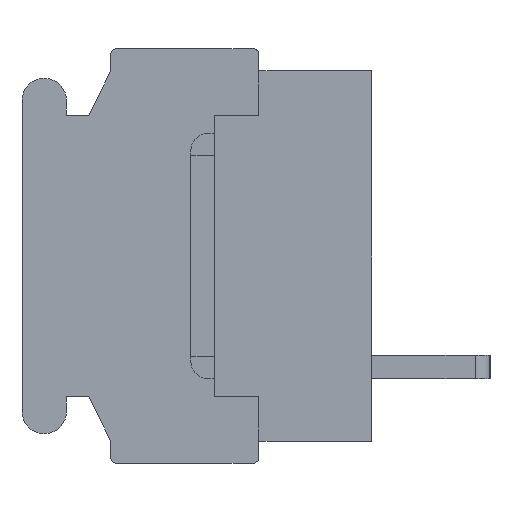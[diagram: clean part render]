
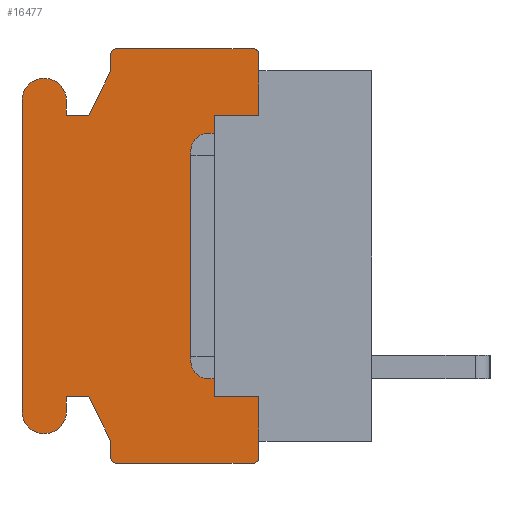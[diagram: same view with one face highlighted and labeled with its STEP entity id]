
A CAD part, left-side view. The second image highlights one B-rep face of the part: STEP entity #16477.
In plain terms, the highlighted planar face has unit normal (-1, 0, 0).
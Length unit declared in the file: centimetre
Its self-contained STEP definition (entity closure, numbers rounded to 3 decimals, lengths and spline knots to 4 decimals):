
#1020=PLANE('',#26991);
#1771=VECTOR('',#17791,1.);
#2520=VECTOR('',#19383,1.);
#2521=VECTOR('',#19384,1.);
#2522=VECTOR('',#19387,1.);
#2523=VECTOR('',#19390,1.);
#2524=VECTOR('',#19391,1.);
#2525=VECTOR('',#19392,1.);
#2526=VECTOR('',#19393,1.);
#2527=VECTOR('',#19396,1.);
#2528=VECTOR('',#19399,1.);
#2529=VECTOR('',#19400,1.);
#2530=VECTOR('',#19401,1.);
#2531=VECTOR('',#19402,1.);
#2532=VECTOR('',#19405,1.);
#2533=VECTOR('',#19408,1.);
#2534=VECTOR('',#19409,1.);
#2535=VECTOR('',#19410,1.);
#2536=VECTOR('',#19411,1.);
#3567=LINE('',#22194,#1771);
#4316=LINE('',#24521,#2520);
#4317=LINE('',#24523,#2521);
#4318=LINE('',#24527,#2522);
#4319=LINE('',#24531,#2523);
#4320=LINE('',#24533,#2524);
#4321=LINE('',#24535,#2525);
#4322=LINE('',#24537,#2526);
#4323=LINE('',#24541,#2527);
#4324=LINE('',#24545,#2528);
#4325=LINE('',#24547,#2529);
#4326=LINE('',#24549,#2530);
#4327=LINE('',#24551,#2531);
#4328=LINE('',#24555,#2532);
#4329=LINE('',#24559,#2533);
#4330=LINE('',#24560,#2534);
#4331=LINE('',#24562,#2535);
#4332=LINE('',#24563,#2536);
#5304=VERTEX_POINT('',#22195);
#5305=VERTEX_POINT('',#22196);
#5393=VERTEX_POINT('',#22447);
#5416=VERTEX_POINT('',#22498);
#5986=VERTEX_POINT('',#24522);
#5987=VERTEX_POINT('',#24524);
#5988=VERTEX_POINT('',#24526);
#5989=VERTEX_POINT('',#24528);
#5990=VERTEX_POINT('',#24530);
#5991=VERTEX_POINT('',#24532);
#5992=VERTEX_POINT('',#24534);
#5993=VERTEX_POINT('',#24536);
#5994=VERTEX_POINT('',#24538);
#5995=VERTEX_POINT('',#24540);
#5996=VERTEX_POINT('',#24542);
#5997=VERTEX_POINT('',#24544);
#5998=VERTEX_POINT('',#24546);
#5999=VERTEX_POINT('',#24548);
#6000=VERTEX_POINT('',#24550);
#6001=VERTEX_POINT('',#24552);
#6002=VERTEX_POINT('',#24554);
#6003=VERTEX_POINT('',#24556);
#6004=VERTEX_POINT('',#24558);
#6005=VERTEX_POINT('',#24561);
#6606=CIRCLE('',#26992,0.02);
#6607=CIRCLE('',#26993,0.02);
#6608=CIRCLE('',#26994,0.075);
#6609=CIRCLE('',#26995,0.075);
#6610=CIRCLE('',#26996,0.02);
#6611=CIRCLE('',#26997,0.02);
#7420=EDGE_CURVE('',#5304,#5305,#3567,.T.);
#8461=EDGE_CURVE('',#5986,#5393,#4316,.T.);
#8462=EDGE_CURVE('',#5987,#5393,#4317,.T.);
#8463=EDGE_CURVE('',#5988,#5987,#6606,.T.);
#8464=EDGE_CURVE('',#5989,#5988,#4318,.T.);
#8465=EDGE_CURVE('',#5990,#5989,#6607,.T.);
#8466=EDGE_CURVE('',#5991,#5990,#4319,.T.);
#8467=EDGE_CURVE('',#5992,#5991,#4320,.T.);
#8468=EDGE_CURVE('',#5993,#5992,#4321,.T.);
#8469=EDGE_CURVE('',#5994,#5993,#4322,.T.);
#8470=EDGE_CURVE('',#5995,#5994,#6608,.T.);
#8471=EDGE_CURVE('',#5996,#5995,#4323,.T.);
#8472=EDGE_CURVE('',#5997,#5996,#6609,.T.);
#8473=EDGE_CURVE('',#5998,#5997,#4324,.T.);
#8474=EDGE_CURVE('',#5999,#5998,#4325,.T.);
#8475=EDGE_CURVE('',#6000,#5999,#4326,.T.);
#8476=EDGE_CURVE('',#6001,#6000,#4327,.T.);
#8477=EDGE_CURVE('',#6002,#6001,#6610,.T.);
#8478=EDGE_CURVE('',#6003,#6002,#4328,.T.);
#8479=EDGE_CURVE('',#6004,#6003,#6611,.T.);
#8480=EDGE_CURVE('',#5416,#6004,#4329,.T.);
#8481=EDGE_CURVE('',#5416,#6005,#4330,.T.);
#8482=EDGE_CURVE('',#6005,#5304,#4331,.T.);
#8483=EDGE_CURVE('',#5305,#5986,#4332,.T.);
#12677=ORIENTED_EDGE('',*,*,#8461,.T.);
#12678=ORIENTED_EDGE('',*,*,#8462,.F.);
#12679=ORIENTED_EDGE('',*,*,#8463,.F.);
#12680=ORIENTED_EDGE('',*,*,#8464,.F.);
#12681=ORIENTED_EDGE('',*,*,#8465,.F.);
#12682=ORIENTED_EDGE('',*,*,#8466,.F.);
#12683=ORIENTED_EDGE('',*,*,#8467,.F.);
#12684=ORIENTED_EDGE('',*,*,#8468,.F.);
#12685=ORIENTED_EDGE('',*,*,#8469,.F.);
#12686=ORIENTED_EDGE('',*,*,#8470,.F.);
#12687=ORIENTED_EDGE('',*,*,#8471,.F.);
#12688=ORIENTED_EDGE('',*,*,#8472,.F.);
#12689=ORIENTED_EDGE('',*,*,#8473,.F.);
#12690=ORIENTED_EDGE('',*,*,#8474,.F.);
#12691=ORIENTED_EDGE('',*,*,#8475,.F.);
#12692=ORIENTED_EDGE('',*,*,#8476,.F.);
#12693=ORIENTED_EDGE('',*,*,#8477,.F.);
#12694=ORIENTED_EDGE('',*,*,#8478,.F.);
#12695=ORIENTED_EDGE('',*,*,#8479,.F.);
#12696=ORIENTED_EDGE('',*,*,#8480,.F.);
#12697=ORIENTED_EDGE('',*,*,#8481,.T.);
#12698=ORIENTED_EDGE('',*,*,#8482,.T.);
#12699=ORIENTED_EDGE('',*,*,#7420,.T.);
#12700=ORIENTED_EDGE('',*,*,#8483,.T.);
#14581=EDGE_LOOP('',(#12677,#12678,#12679,#12680,#12681,#12682,#12683,#12684,
#12685,#12686,#12687,#12688,#12689,#12690,#12691,#12692,#12693,#12694,#12695,
#12696,#12697,#12698,#12699,#12700));
#15559=FACE_BOUND('',#14581,.T.);
#16477=ADVANCED_FACE('',(#15559),#1020,.F.);
#17791=DIRECTION('',(0.,0.,1.));
#19382=DIRECTION('',(1.,0.,0.));
#19383=DIRECTION('',(0.,0.,1.));
#19384=DIRECTION('',(0.,0.,-1.));
#19385=DIRECTION('',(1.,0.,0.));
#19386=DIRECTION('',(0.,0.,-0.02));
#19387=DIRECTION('',(0.,-1.,0.));
#19388=DIRECTION('',(1.,0.,0.));
#19389=DIRECTION('',(0.,0.,-0.02));
#19390=DIRECTION('',(0.,0.,1.));
#19391=DIRECTION('',(0.,-0.447,0.894));
#19392=DIRECTION('',(0.,-1.,0.));
#19393=DIRECTION('',(0.,0.,-1.));
#19394=DIRECTION('',(1.,0.,0.));
#19395=DIRECTION('',(0.,0.,-0.075));
#19396=DIRECTION('',(0.,0.,1.));
#19397=DIRECTION('',(1.,0.,0.));
#19398=DIRECTION('',(0.,0.,-0.075));
#19399=DIRECTION('',(0.,0.,-1.));
#19400=DIRECTION('',(0.,1.,0.));
#19401=DIRECTION('',(0.,0.447,0.894));
#19402=DIRECTION('',(0.,0.,1.));
#19403=DIRECTION('',(1.,0.,0.));
#19404=DIRECTION('',(0.,0.,-0.02));
#19405=DIRECTION('',(0.,1.,0.));
#19406=DIRECTION('',(1.,0.,0.));
#19407=DIRECTION('',(0.,0.,-0.02));
#19408=DIRECTION('',(0.,0.,-1.));
#19409=DIRECTION('',(0.,0.,1.));
#19410=DIRECTION('',(0.,1.,0.));
#19411=DIRECTION('',(0.,-1.,0.));
#22194=CARTESIAN_POINT('',(-0.762,0.53,0.));
#22195=CARTESIAN_POINT('',(-0.762,0.53,-0.475));
#22196=CARTESIAN_POINT('',(-0.762,0.53,0.475));
#22447=CARTESIAN_POINT('',(-0.762,0.38,0.625));
#22498=CARTESIAN_POINT('',(-0.762,0.38,-0.625));
#24520=CARTESIAN_POINT('',(-0.762,0.6059,0.));
#24521=CARTESIAN_POINT('',(-0.762,0.38,0.275));
#24522=CARTESIAN_POINT('',(-0.762,0.38,0.475));
#24523=CARTESIAN_POINT('',(-0.762,0.38,0.68));
#24524=CARTESIAN_POINT('',(-0.762,0.38,0.68));
#24525=CARTESIAN_POINT('',(-0.762,0.4,0.68));
#24526=CARTESIAN_POINT('',(-0.762,0.4,0.7));
#24527=CARTESIAN_POINT('',(-0.762,0.86,0.7));
#24528=CARTESIAN_POINT('',(-0.762,0.86,0.7));
#24529=CARTESIAN_POINT('',(-0.762,0.86,0.68));
#24530=CARTESIAN_POINT('',(-0.762,0.88,0.68));
#24531=CARTESIAN_POINT('',(-0.762,0.88,0.625));
#24532=CARTESIAN_POINT('',(-0.762,0.88,0.625));
#24533=CARTESIAN_POINT('',(-0.762,0.955,0.475));
#24534=CARTESIAN_POINT('',(-0.762,0.955,0.475));
#24535=CARTESIAN_POINT('',(-0.762,1.03,0.475));
#24536=CARTESIAN_POINT('',(-0.762,1.03,0.475));
#24537=CARTESIAN_POINT('',(-0.762,1.03,0.525));
#24538=CARTESIAN_POINT('',(-0.762,1.03,0.525));
#24539=CARTESIAN_POINT('',(-0.762,1.105,0.525));
#24540=CARTESIAN_POINT('',(-0.762,1.18,0.525));
#24541=CARTESIAN_POINT('',(-0.762,1.18,-0.525));
#24542=CARTESIAN_POINT('',(-0.762,1.18,-0.525));
#24543=CARTESIAN_POINT('',(-0.762,1.105,-0.525));
#24544=CARTESIAN_POINT('',(-0.762,1.03,-0.525));
#24545=CARTESIAN_POINT('',(-0.762,1.03,-0.475));
#24546=CARTESIAN_POINT('',(-0.762,1.03,-0.475));
#24547=CARTESIAN_POINT('',(-0.762,0.955,-0.475));
#24548=CARTESIAN_POINT('',(-0.762,0.955,-0.475));
#24549=CARTESIAN_POINT('',(-0.762,0.88,-0.625));
#24550=CARTESIAN_POINT('',(-0.762,0.88,-0.625));
#24551=CARTESIAN_POINT('',(-0.762,0.88,-0.68));
#24552=CARTESIAN_POINT('',(-0.762,0.88,-0.68));
#24553=CARTESIAN_POINT('',(-0.762,0.86,-0.68));
#24554=CARTESIAN_POINT('',(-0.762,0.86,-0.7));
#24555=CARTESIAN_POINT('',(-0.762,0.4,-0.7));
#24556=CARTESIAN_POINT('',(-0.762,0.4,-0.7));
#24557=CARTESIAN_POINT('',(-0.762,0.4,-0.68));
#24558=CARTESIAN_POINT('',(-0.762,0.38,-0.68));
#24559=CARTESIAN_POINT('',(-0.762,0.38,-0.625));
#24560=CARTESIAN_POINT('',(-0.762,0.38,-0.275));
#24561=CARTESIAN_POINT('',(-0.762,0.38,-0.475));
#24562=CARTESIAN_POINT('',(-0.762,0.5304,-0.475));
#24563=CARTESIAN_POINT('',(-0.762,0.5304,0.475));
#26991=AXIS2_PLACEMENT_3D('',#24520,#19382,$);
#26992=AXIS2_PLACEMENT_3D('',#24525,#19385,#19386);
#26993=AXIS2_PLACEMENT_3D('',#24529,#19388,#19389);
#26994=AXIS2_PLACEMENT_3D('',#24539,#19394,#19395);
#26995=AXIS2_PLACEMENT_3D('',#24543,#19397,#19398);
#26996=AXIS2_PLACEMENT_3D('',#24553,#19403,#19404);
#26997=AXIS2_PLACEMENT_3D('',#24557,#19406,#19407);
